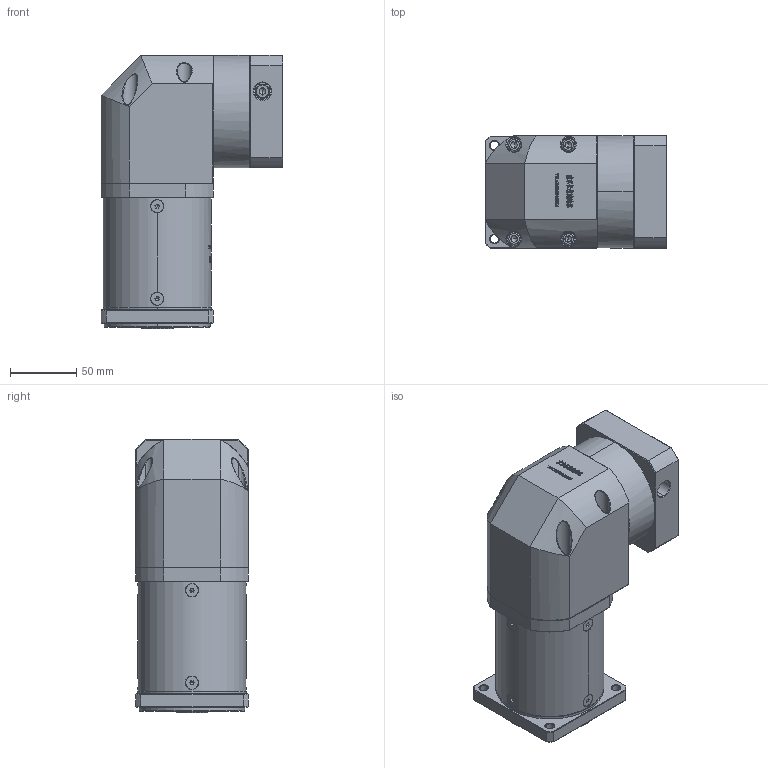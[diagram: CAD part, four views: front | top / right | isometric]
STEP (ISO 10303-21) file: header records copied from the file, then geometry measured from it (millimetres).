
FILE_DESCRIPTION (( 'STEP AP214' ), '1' );
FILE_NAME ('ZF80-K15-L3-14-73-69.6X69.6-M6.step', '2022-05-08T12:04:32', ( '' ), ( 'Microsoft' ), 'SwSTEP 2.0', 'SolidWorks 2016', '' );
FILE_SCHEMA (( 'AUTOMOTIVE_DESIGN' ));
Length unit declared in the file: millimetre
Products named in the file (1): ZF80-K15-L3-14-73-69.6X69.6-M6
Bounding box: 137.6 x 85 x 206.5 mm (x, y, z)
Volume: 1441505.6 mm3; surface area: 143998.6 mm2
Topology: 13 solids, 13 shells, 3009 faces, 7902 edges, 5040 vertices
Faces by surface type: plane 1612, bspline 614, cylinder 416, cone 353, torus 14
Entity records: 158655 total; most frequent: CARTESIAN_POINT 56901, ORIENTED_EDGE 15716, DIRECTION 11850, EDGE_CURVE 7858, VERTEX_POINT 5040, LINE 4926, VECTOR 4926, AXIS2_PLACEMENT_3D 3462
